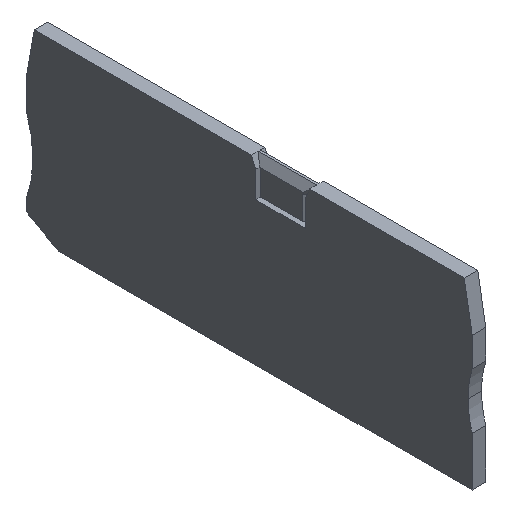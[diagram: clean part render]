
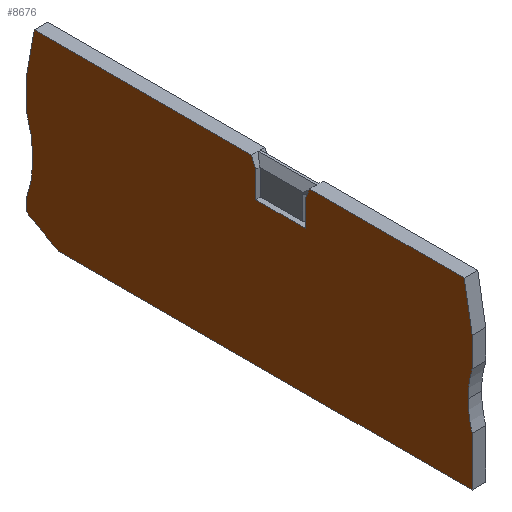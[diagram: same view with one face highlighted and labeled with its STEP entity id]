
A CAD part, isometric view. The second image highlights one B-rep face of the part: STEP entity #8676.
In plain terms, the highlighted planar face has unit normal (-1, 0, 0).
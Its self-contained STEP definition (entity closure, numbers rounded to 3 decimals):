
#8182=CARTESIAN_POINT('',(0.,67.079,0.));
#8183=VERTEX_POINT('',#8182);
#8191=CARTESIAN_POINT('',(0.,0.,0.));
#8192=VERTEX_POINT('',#8191);
#8199=CARTESIAN_POINT('',(0.,67.079,0.));
#8200=DIRECTION('',(-0.,-1.,-0.));
#8201=VECTOR('',#8200,67.079);
#8202=LINE('',#8199,#8201);
#8203=EDGE_CURVE('',#8183,#8192,#8202,.T.);
#8213=CARTESIAN_POINT('',(0.,67.305,0.125));
#8214=VERTEX_POINT('',#8213);
#8215=CARTESIAN_POINT('',(0.,67.305,0.125));
#8216=DIRECTION('',(0.,-0.875,-0.485));
#8217=VECTOR('',#8216,0.259);
#8218=LINE('',#8215,#8217);
#8219=EDGE_CURVE('',#8214,#8183,#8218,.T.);
#8221=CARTESIAN_POINT('',(0.,71.27,2.323));
#8222=VERTEX_POINT('',#8221);
#8223=CARTESIAN_POINT('',(0.,71.27,2.323));
#8224=DIRECTION('',(0.,-0.875,-0.485));
#8225=VECTOR('',#8224,4.532);
#8226=LINE('',#8223,#8225);
#8227=EDGE_CURVE('',#8222,#8214,#8226,.T.);
#8229=CARTESIAN_POINT('',(0.,72.3,2.894));
#8230=VERTEX_POINT('',#8229);
#8231=CARTESIAN_POINT('',(0.,71.27,2.323));
#8232=DIRECTION('',(-0.,0.875,0.485));
#8233=VECTOR('',#8232,1.178);
#8234=LINE('',#8231,#8233);
#8235=EDGE_CURVE('',#8222,#8230,#8234,.T.);
#8253=CARTESIAN_POINT('',(0.,72.3,4.72));
#8254=VERTEX_POINT('',#8253);
#8263=CARTESIAN_POINT('',(0.,72.3,4.72));
#8264=DIRECTION('',(0.,-0.,-1.));
#8265=VECTOR('',#8264,1.826);
#8266=LINE('',#8263,#8265);
#8267=EDGE_CURVE('',#8254,#8230,#8266,.T.);
#8278=CARTESIAN_POINT('',(0.,72.3,17.08));
#8279=VERTEX_POINT('',#8278);
#8280=CARTESIAN_POINT('',(0.,89.264,10.9));
#8281=DIRECTION('',(1.,-0.,0.));
#8282=DIRECTION('',(0.,1.,0.));
#8283=AXIS2_PLACEMENT_3D('',#8280,#8281,#8282);
#8284=CIRCLE('',#8283,18.055);
#8285=EDGE_CURVE('',#8279,#8254,#8284,.T.);
#8302=CARTESIAN_POINT('',(0.,72.3,21.727));
#8303=VERTEX_POINT('',#8302);
#8312=CARTESIAN_POINT('',(0.,72.3,21.727));
#8313=DIRECTION('',(0.,-0.,-1.));
#8314=VECTOR('',#8313,4.647);
#8315=LINE('',#8312,#8314);
#8316=EDGE_CURVE('',#8303,#8279,#8315,.T.);
#8326=CARTESIAN_POINT('',(0.,72.285,21.813));
#8327=VERTEX_POINT('',#8326);
#8328=CARTESIAN_POINT('',(0.,72.285,21.813));
#8329=DIRECTION('',(0.,0.174,-0.985));
#8330=VECTOR('',#8329,0.087);
#8331=LINE('',#8328,#8330);
#8332=EDGE_CURVE('',#8327,#8303,#8331,.T.);
#8334=CARTESIAN_POINT('',(-0.,71.073,28.687));
#8335=VERTEX_POINT('',#8334);
#8336=CARTESIAN_POINT('',(0.,71.073,28.687));
#8337=DIRECTION('',(0.,0.174,-0.985));
#8338=VECTOR('',#8337,6.979);
#8339=LINE('',#8336,#8338);
#8340=EDGE_CURVE('',#8335,#8327,#8339,.T.);
#8342=CARTESIAN_POINT('',(-0.,71.,29.1));
#8343=VERTEX_POINT('',#8342);
#8344=CARTESIAN_POINT('',(0.,71.073,28.687));
#8345=DIRECTION('',(-0.,-0.174,0.985));
#8346=VECTOR('',#8345,0.42);
#8347=LINE('',#8344,#8346);
#8348=EDGE_CURVE('',#8335,#8343,#8347,.T.);
#8366=CARTESIAN_POINT('',(-0.,35.797,29.1));
#8367=VERTEX_POINT('',#8366);
#8374=CARTESIAN_POINT('',(0.,35.1,27.423));
#8375=VERTEX_POINT('',#8374);
#8376=CARTESIAN_POINT('',(-0.,35.797,29.1));
#8377=DIRECTION('',(0.,-0.384,-0.923));
#8378=VECTOR('',#8377,1.816);
#8379=LINE('',#8376,#8378);
#8380=EDGE_CURVE('',#8367,#8375,#8379,.T.);
#8397=CARTESIAN_POINT('',(0.,35.1,23.2));
#8398=VERTEX_POINT('',#8397);
#8399=CARTESIAN_POINT('',(0.,35.1,27.423));
#8400=DIRECTION('',(0.,0.,-1.));
#8401=VECTOR('',#8400,4.223);
#8402=LINE('',#8399,#8401);
#8403=EDGE_CURVE('',#8375,#8398,#8402,.T.);
#8421=CARTESIAN_POINT('',(0.,27.05,23.2));
#8422=VERTEX_POINT('',#8421);
#8423=CARTESIAN_POINT('',(0.,35.1,23.2));
#8424=DIRECTION('',(0.,-1.,0.));
#8425=VECTOR('',#8424,8.05);
#8426=LINE('',#8423,#8425);
#8427=EDGE_CURVE('',#8398,#8422,#8426,.T.);
#8445=CARTESIAN_POINT('',(0.,27.05,27.423));
#8446=VERTEX_POINT('',#8445);
#8447=CARTESIAN_POINT('',(0.,27.05,23.2));
#8448=DIRECTION('',(-0.,0.,1.));
#8449=VECTOR('',#8448,4.223);
#8450=LINE('',#8447,#8449);
#8451=EDGE_CURVE('',#8422,#8446,#8450,.T.);
#8469=CARTESIAN_POINT('',(-0.,26.353,29.1));
#8470=VERTEX_POINT('',#8469);
#8471=CARTESIAN_POINT('',(0.,27.05,27.423));
#8472=DIRECTION('',(-0.,-0.384,0.923));
#8473=VECTOR('',#8472,1.816);
#8474=LINE('',#8471,#8473);
#8475=EDGE_CURVE('',#8446,#8470,#8474,.T.);
#8494=CARTESIAN_POINT('',(-0.,1.3,29.1));
#8495=VERTEX_POINT('',#8494);
#8508=CARTESIAN_POINT('',(0.,35.797,29.1));
#8509=DIRECTION('',(-0.,1.,-0.));
#8510=VECTOR('',#8509,35.203);
#8511=LINE('',#8508,#8510);
#8512=EDGE_CURVE('',#8367,#8343,#8511,.T.);
#8517=CARTESIAN_POINT('',(0.,1.3,29.1));
#8518=DIRECTION('',(-0.,1.,-0.));
#8519=VECTOR('',#8518,25.053);
#8520=LINE('',#8517,#8519);
#8521=EDGE_CURVE('',#8495,#8470,#8520,.T.);
#8531=CARTESIAN_POINT('',(-0.,1.227,28.687));
#8532=VERTEX_POINT('',#8531);
#8533=CARTESIAN_POINT('',(-0.,1.227,28.687));
#8534=DIRECTION('',(-0.,0.174,0.985));
#8535=VECTOR('',#8534,0.42);
#8536=LINE('',#8533,#8535);
#8537=EDGE_CURVE('',#8532,#8495,#8536,.T.);
#8539=CARTESIAN_POINT('',(0.,0.015,21.813));
#8540=VERTEX_POINT('',#8539);
#8541=CARTESIAN_POINT('',(-0.,0.015,21.813));
#8542=DIRECTION('',(-0.,0.174,0.985));
#8543=VECTOR('',#8542,6.979);
#8544=LINE('',#8541,#8543);
#8545=EDGE_CURVE('',#8540,#8532,#8544,.T.);
#8547=CARTESIAN_POINT('',(0.,0.,21.727));
#8548=VERTEX_POINT('',#8547);
#8549=CARTESIAN_POINT('',(-0.,0.015,21.813));
#8550=DIRECTION('',(0.,-0.174,-0.985));
#8551=VECTOR('',#8550,0.087);
#8552=LINE('',#8549,#8551);
#8553=EDGE_CURVE('',#8540,#8548,#8552,.T.);
#8571=CARTESIAN_POINT('',(0.,0.,16.993));
#8572=VERTEX_POINT('',#8571);
#8581=CARTESIAN_POINT('',(0.,0.,16.993));
#8582=DIRECTION('',(-0.,-0.,1.));
#8583=VECTOR('',#8582,4.735);
#8584=LINE('',#8581,#8583);
#8585=EDGE_CURVE('',#8572,#8548,#8584,.T.);
#8595=CARTESIAN_POINT('',(0.,0.681,12.475));
#8596=VERTEX_POINT('',#8595);
#8605=CARTESIAN_POINT('',(0.,-14.643,12.475));
#8606=DIRECTION('',(1.,-0.,0.));
#8607=DIRECTION('',(0.,1.,0.));
#8608=AXIS2_PLACEMENT_3D('',#8605,#8606,#8607);
#8609=CIRCLE('',#8608,15.324);
#8610=EDGE_CURVE('',#8596,#8572,#8609,.T.);
#8622=CARTESIAN_POINT('',(0.,0.,7.956));
#8623=VERTEX_POINT('',#8622);
#8630=CARTESIAN_POINT('',(0.,0.,0.));
#8631=DIRECTION('',(-0.,-0.,1.));
#8632=VECTOR('',#8631,7.956);
#8633=LINE('',#8630,#8632);
#8634=EDGE_CURVE('',#8192,#8623,#8633,.T.);
#8639=CARTESIAN_POINT('',(-0.,36.1,29.1));
#8640=DIRECTION('',(1.,0.,0.));
#8641=DIRECTION('',(0.,1.,0.));
#8642=AXIS2_PLACEMENT_3D('',#8639,#8640,#8641);
#8643=PLANE('',#8642);
#8644=ORIENTED_EDGE('',*,*,#8203,.T.);
#8645=ORIENTED_EDGE('',*,*,#8634,.T.);
#8646=CARTESIAN_POINT('',(0.,-14.643,12.475));
#8647=DIRECTION('',(1.,-0.,0.));
#8648=DIRECTION('',(0.,1.,0.));
#8649=AXIS2_PLACEMENT_3D('',#8646,#8647,#8648);
#8650=CIRCLE('',#8649,15.324);
#8651=EDGE_CURVE('',#8623,#8596,#8650,.T.);
#8652=ORIENTED_EDGE('',*,*,#8651,.T.);
#8653=ORIENTED_EDGE('',*,*,#8610,.T.);
#8654=ORIENTED_EDGE('',*,*,#8585,.T.);
#8655=ORIENTED_EDGE('',*,*,#8553,.F.);
#8656=ORIENTED_EDGE('',*,*,#8545,.T.);
#8657=ORIENTED_EDGE('',*,*,#8537,.T.);
#8658=ORIENTED_EDGE('',*,*,#8521,.T.);
#8659=ORIENTED_EDGE('',*,*,#8475,.F.);
#8660=ORIENTED_EDGE('',*,*,#8451,.F.);
#8661=ORIENTED_EDGE('',*,*,#8427,.F.);
#8662=ORIENTED_EDGE('',*,*,#8403,.F.);
#8663=ORIENTED_EDGE('',*,*,#8380,.F.);
#8664=ORIENTED_EDGE('',*,*,#8512,.T.);
#8665=ORIENTED_EDGE('',*,*,#8348,.F.);
#8666=ORIENTED_EDGE('',*,*,#8340,.T.);
#8667=ORIENTED_EDGE('',*,*,#8332,.T.);
#8668=ORIENTED_EDGE('',*,*,#8316,.T.);
#8669=ORIENTED_EDGE('',*,*,#8285,.T.);
#8670=ORIENTED_EDGE('',*,*,#8267,.T.);
#8671=ORIENTED_EDGE('',*,*,#8235,.F.);
#8672=ORIENTED_EDGE('',*,*,#8227,.T.);
#8673=ORIENTED_EDGE('',*,*,#8219,.T.);
#8674=EDGE_LOOP('',(#8644,#8645,#8652,#8653,#8654,#8655,#8656,#8657,#8658,#8659,#8660,#8661,#8662,#8663,#8664,#8665,#8666,#8667,#8668,#8669,#8670,#8671,#8672,#8673));
#8675=FACE_BOUND('',#8674,.T.);
#8676=ADVANCED_FACE('',(#8675),#8643,.F.);
